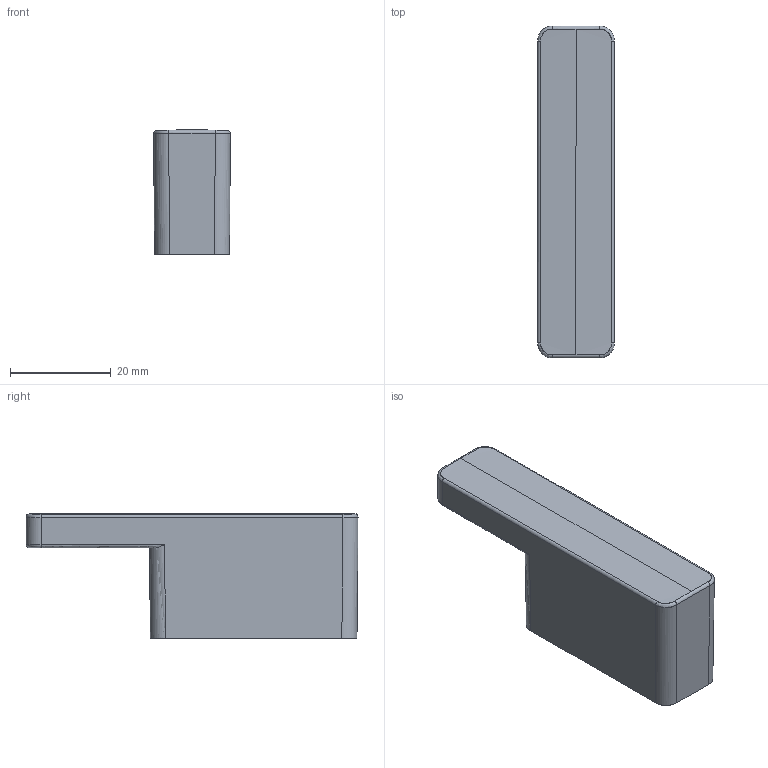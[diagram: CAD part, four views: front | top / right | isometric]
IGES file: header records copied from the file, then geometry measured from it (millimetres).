
Start section: C
Global section: file name: 8315-.igs; native system: By Siemens PLM Incorporated; preprocessor: XPlus GENERIC/IGES 16.0.42; author: Author; organization: Title; date: 20220504.141756; units: millimetre
Bounding box: 15.29 x 66 x 24.75 mm (x, y, z)
Surface area: 8170.2 mm2 (no closed solid volume)
Topology: 0 solids, 0 shells, 64 faces, 328 edges, 328 vertices
Faces by surface type: bspline 64
